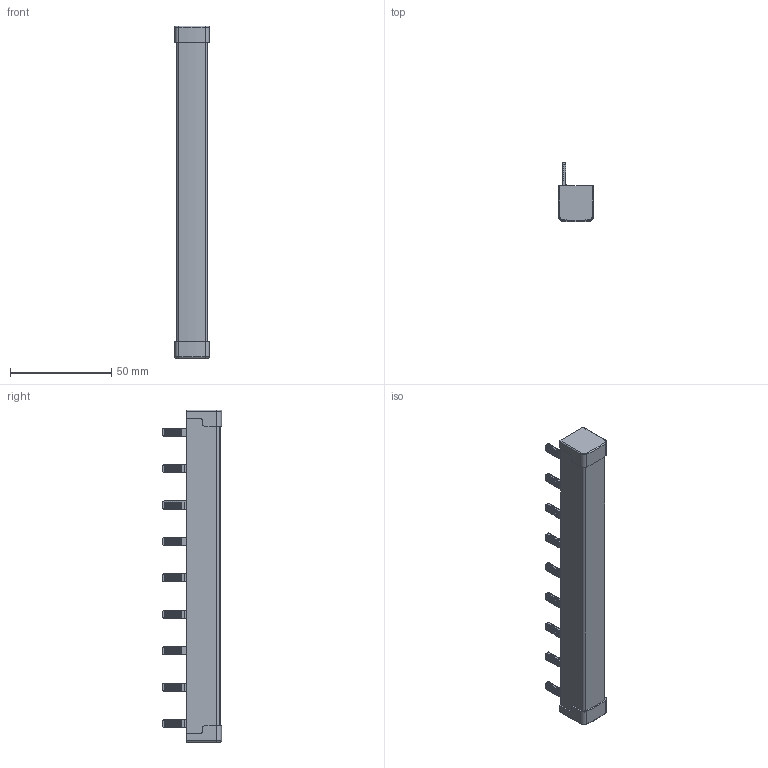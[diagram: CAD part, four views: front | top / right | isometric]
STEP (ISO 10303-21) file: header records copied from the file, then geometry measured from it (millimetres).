
FILE_DESCRIPTION (( 'STEP AP203' ), '1' );
FILE_NAME ('NDH2-63 3P 9λ.STEP', '2026-06-23T07:17:49', ( '' ), ( '' ), 'SwSTEP 2.0', 'SolidWorks 2018', '' );
FILE_SCHEMA (( 'CONFIG_CONTROL_DESIGN' ));
Length unit declared in the file: millimetre
Products named in the file (1): NDH2-63 3P 9λ
Bounding box: 17.02 x 29.32 x 164 mm (x, y, z)
Volume: 24186.5 mm3; surface area: 45772.1 mm2
Topology: 6 solids, 6 shells, 1216 faces, 3519 edges, 2328 vertices
Faces by surface type: plane 1025, cylinder 185, torus 6
Entity records: 39482 total; most frequent: CARTESIAN_POINT 7280, ORIENTED_EDGE 7038, DIRECTION 6213, EDGE_CURVE 3519, VECTOR 3115, LINE 3115, VERTEX_POINT 2328, AXIS2_PLACEMENT_3D 1549
